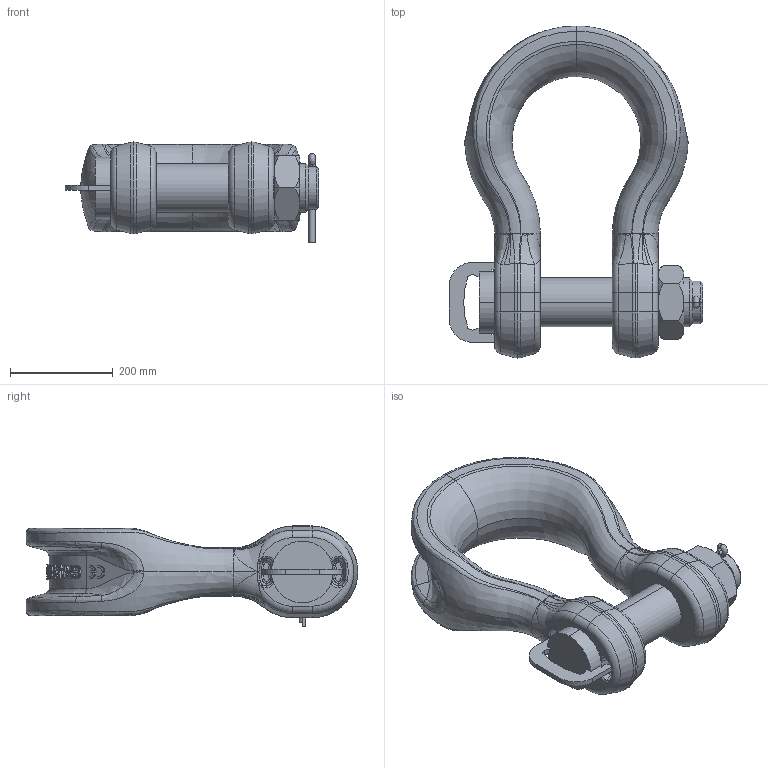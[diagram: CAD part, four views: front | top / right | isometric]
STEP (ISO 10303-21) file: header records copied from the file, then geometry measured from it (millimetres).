
FILE_DESCRIPTION(('STEP AP214'),'1');
FILE_NAME('slgpf0150.stp','2017-04-25T11:18:44',('TraceParts'),('TraceParts S.A.'),'Spatial InterOp 3D',' ',' ');
FILE_SCHEMA(('automotive_design'));
Length unit declared in the file: millimetre
Products named in the file (5): slgpf0150_1; slgpf0150_2; slgpf0150_3; slgpf0150_4; slgpf0150_5
Bounding box: 492.5 x 645 x 194.42 mm (x, y, z)
Volume: 16238203.2 mm3; surface area: 878113.9 mm2
Topology: 5 solids, 5 shells, 623 faces, 1570 edges, 976 vertices
Faces by surface type: bspline 227, plane 178, cylinder 83, torus 75, cone 60
Entity records: 165261 total; most frequent: CARTESIAN_POINT 146763, ORIENTED_EDGE 3130, DIRECTION 2224, EDGE_CURVE 1565, VERTEX_POINT 976, AXIS2_PLACEMENT_3D 829, EDGE_LOOP 655, PRESENTATION_STYLE_ASSIGNMENT 633
